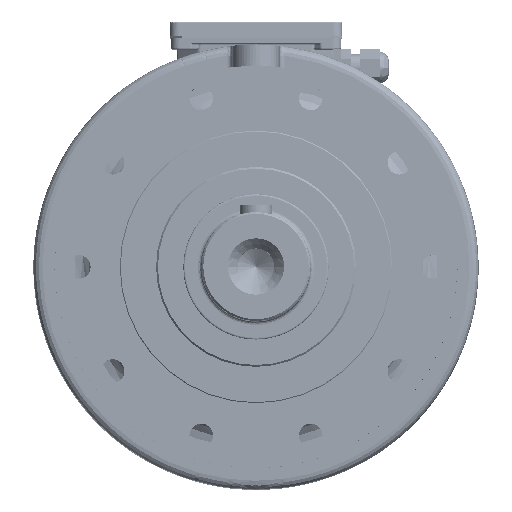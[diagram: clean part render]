
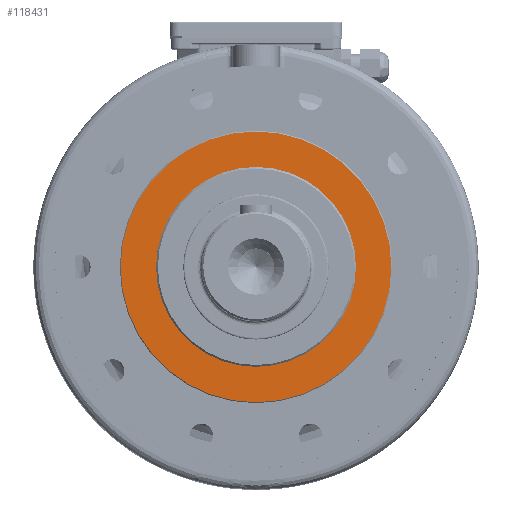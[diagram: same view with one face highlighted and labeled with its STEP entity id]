
A CAD part, top view. The second image highlights one B-rep face of the part: STEP entity #118431.
In plain terms, the highlighted planar face has unit normal (0, 0, 1).
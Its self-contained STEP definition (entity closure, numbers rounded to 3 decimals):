
#30953 = AXIS2_PLACEMENT_3D ( 'NONE', #171210, #171268, #171223 ) ;
#83538 = CARTESIAN_POINT ( 'NONE',  ( 0., 74.5, 133.6 ) ) ;
#83645 = CARTESIAN_POINT ( 'NONE',  ( -55., 0., 133.6 ) ) ;
#83693 = CARTESIAN_POINT ( 'NONE',  ( 0., -74.5, 133.6 ) ) ;
#83696 = CARTESIAN_POINT ( 'NONE',  ( 55., 0., 133.6 ) ) ;
#100924 = EDGE_LOOP ( 'NONE', ( #159257, #159253 ) ) ;
#100974 = EDGE_LOOP ( 'NONE', ( #159307, #159279 ) ) ;
#118431 = ADVANCED_FACE ( 'NONE', ( #172673, #172640 ), #171330, .T. ) ;
#159253 = ORIENTED_EDGE ( 'NONE', *, *, #165324, .T. ) ;
#159257 = ORIENTED_EDGE ( 'NONE', *, *, #165035, .T. ) ;
#159279 = ORIENTED_EDGE ( 'NONE', *, *, #165424, .F. ) ;
#159307 = ORIENTED_EDGE ( 'NONE', *, *, #165255, .F. ) ;
#165035 = EDGE_CURVE ( 'NONE', #230235, #230125, #200459, .T. ) ;
#165255 = EDGE_CURVE ( 'NONE', #229401, #230034, #200489, .T. ) ;
#165324 = EDGE_CURVE ( 'NONE', #230125, #230235, #200575, .T. ) ;
#165424 = EDGE_CURVE ( 'NONE', #230034, #229401, #200703, .T. ) ;
#171210 = CARTESIAN_POINT ( 'NONE',  ( 0., 74.5, 133.6 ) ) ;
#171223 = DIRECTION ( 'NONE',  ( 0., -1., 0. ) ) ;
#171268 = DIRECTION ( 'NONE',  ( 0., 0., 1. ) ) ;
#171330 = PLANE ( 'NONE',  #30953 ) ;
#172640 = FACE_BOUND ( 'NONE', #100924, .T. ) ;
#172673 = FACE_OUTER_BOUND ( 'NONE', #100974, .T. ) ;
#200459 = CIRCLE ( 'NONE', #206033, 55. ) ;
#200489 = CIRCLE ( 'NONE', #206317, 74.5 ) ;
#200575 = CIRCLE ( 'NONE', #206255, 55. ) ;
#200703 = CIRCLE ( 'NONE', #206237, 74.5 ) ;
#206033 = AXIS2_PLACEMENT_3D ( 'NONE', #209583, #209614, #209616 ) ;
#206237 = AXIS2_PLACEMENT_3D ( 'NONE', #211591, #211587, #211539 ) ;
#206255 = AXIS2_PLACEMENT_3D ( 'NONE', #211452, #211535, #211494 ) ;
#206317 = AXIS2_PLACEMENT_3D ( 'NONE', #211331, #211361, #211345 ) ;
#209583 = CARTESIAN_POINT ( 'NONE',  ( 0., 0., 133.6 ) ) ;
#209614 = DIRECTION ( 'NONE',  ( 0., 0., -1. ) ) ;
#209616 = DIRECTION ( 'NONE',  ( -1., 0., 0. ) ) ;
#211331 = CARTESIAN_POINT ( 'NONE',  ( 0., 0., 133.6 ) ) ;
#211345 = DIRECTION ( 'NONE',  ( 0., 1., 0. ) ) ;
#211361 = DIRECTION ( 'NONE',  ( 0., 0., -1. ) ) ;
#211452 = CARTESIAN_POINT ( 'NONE',  ( 0., 0., 133.6 ) ) ;
#211494 = DIRECTION ( 'NONE',  ( -1., 0., 0. ) ) ;
#211535 = DIRECTION ( 'NONE',  ( 0., 0., -1. ) ) ;
#211539 = DIRECTION ( 'NONE',  ( 0., 1., 0. ) ) ;
#211587 = DIRECTION ( 'NONE',  ( 0., 0., -1. ) ) ;
#211591 = CARTESIAN_POINT ( 'NONE',  ( 0., 0., 133.6 ) ) ;
#229401 = VERTEX_POINT ( 'NONE', #83538 ) ;
#230034 = VERTEX_POINT ( 'NONE', #83693 ) ;
#230125 = VERTEX_POINT ( 'NONE', #83696 ) ;
#230235 = VERTEX_POINT ( 'NONE', #83645 ) ;
